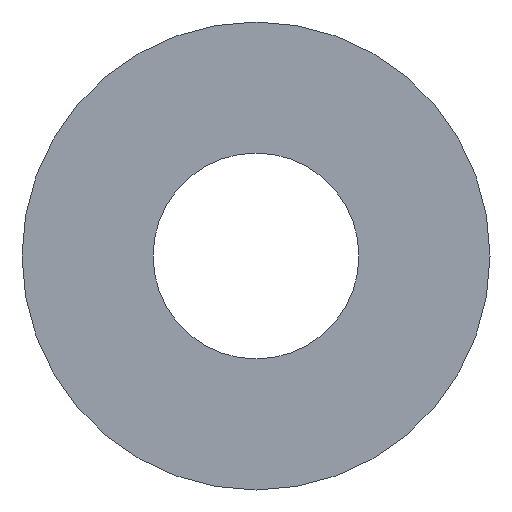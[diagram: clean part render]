
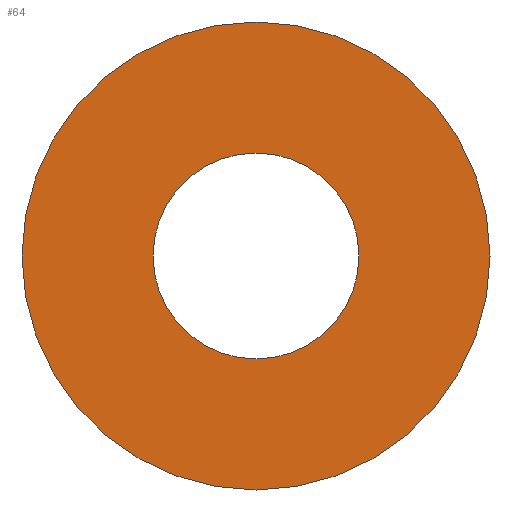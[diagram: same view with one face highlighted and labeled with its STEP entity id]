
A CAD part, front view. The second image highlights one B-rep face of the part: STEP entity #64.
In plain terms, the highlighted planar face has unit normal (0, -1, 0).
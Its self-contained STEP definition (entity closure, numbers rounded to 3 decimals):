
#16=FACE_BOUND('',#28,.T.);
#18=PLANE('',#95);
#22=FACE_OUTER_BOUND('',#27,.T.);
#27=EDGE_LOOP('',(#57));
#28=EDGE_LOOP('',(#58));
#34=CIRCLE('',#90,3.3);
#36=CIRCLE('',#93,7.5);
#38=VERTEX_POINT('',#120);
#40=VERTEX_POINT('',#126);
#43=EDGE_CURVE('',#38,#38,#34,.T.);
#46=EDGE_CURVE('',#40,#40,#36,.T.);
#57=ORIENTED_EDGE('',*,*,#46,.F.);
#58=ORIENTED_EDGE('',*,*,#43,.F.);
#64=ADVANCED_FACE('',(#22,#16),#18,.F.);
#90=AXIS2_PLACEMENT_3D('',#122,#103,#104);
#93=AXIS2_PLACEMENT_3D('',#128,#110,#111);
#95=AXIS2_PLACEMENT_3D('',#130,#114,#115);
#103=DIRECTION('center_axis',(0.,-1.,0.));
#104=DIRECTION('ref_axis',(1.,0.,0.));
#110=DIRECTION('center_axis',(0.,1.,0.));
#111=DIRECTION('ref_axis',(-1.,0.,0.));
#114=DIRECTION('center_axis',(0.,1.,0.));
#115=DIRECTION('ref_axis',(0.,0.,1.));
#120=CARTESIAN_POINT('',(-3.3,0.,0.));
#122=CARTESIAN_POINT('Origin',(0.,0.,0.));
#126=CARTESIAN_POINT('',(7.5,0.,0.));
#128=CARTESIAN_POINT('Origin',(0.,0.,0.));
#130=CARTESIAN_POINT('Origin',(0.,0.,0.));
